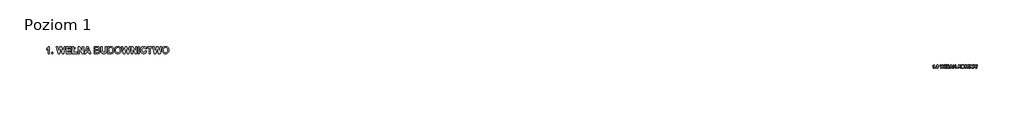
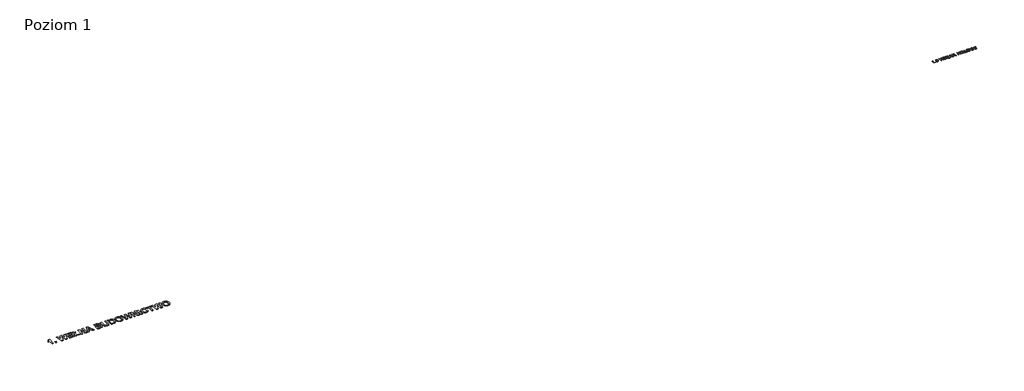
# One storey, incomplete: 2 proxies.
"""IFC4 building model written with IfcOpenShell, lengths in millimetres."""

from ifc_helpers import new_model, si_unit, origin, origin_with_axes, place, context, project, spatial, polyline, outline, extrude, element, save

model = new_model("IFC4")

# Units and contexts
model_context = context("Model", 3, world=origin())
ifc_project = project(units=[si_unit("LENGTHUNIT", "METRE", prefix="MILLI")], contexts=[model_context])

# Site, building, storey
site = spatial("IfcSite", under=ifc_project)
building = spatial("IfcBuilding", under=site)
storey = spatial("IfcBuildingStorey", under=building, Name="Poziom 1", Elevation=0.0)

# Proxies
placement = place(None, origin())
element("IfcBuildingElementProxy", 1, Name="400 mm Arial", ObjectType="400 mm Arial", at=placement, inside=storey, context=model_context, shape_type="SweptSolid", body=[
    extrude(outline(polyline([(87388.1068831, 15251.1796723), (87449.3190043, 15546.3368692), (87427.350787, 15531.4283702), (87401.3296577, 15518.0740851), (87337.1286634, 15496.0281571), (87346.1191937, 15538.8766419), (87381.8302496, 15555.5067319), (87417.0391748, 15576.5125321), (87469.9780952, 15617.0177404), (87490.7328301, 15642.937248), (87519.330368, 15642.937248), (87437.9373755, 15251.1796723), (87388.1068831, 15251.1796723)])), origin_with_axes(), (0.0, 0.0, 1.0), 5.0),
    extrude(outline(polyline([(87584.7508225, 15251.1796723), (87596.2280952, 15300.1493692), (87645.1977922, 15300.1493692), (87634.6769589, 15251.1796723), (87584.7508225, 15251.1796723)])), origin_with_axes(), (0.0, 0.0, 1.0), 5.0),
    extrude(outline(polyline([(87743.1371861, 15342.9978541), (87788.3767695, 15342.9978541), (87795.1435782, 15320.3182849), (87806.6447619, 15305.26632), (87821.8282373, 15296.8376978), (87839.641921, 15294.0281571), (87865.8244494, 15299.8863484), (87890.046277, 15317.4609223), (87906.0785924, 15336.5060217), (87919.8393642, 15359.3051457), (87931.3285924, 15385.8582944), (87940.546277, 15416.1654677), (87918.1536397, 15396.4986827), (87898.4151217, 15383.4074185), (87879.7765091, 15376.0547906), (87860.6835877, 15373.6039147), (87827.5190517, 15379.6533938), (87798.0368073, 15397.8018313), (87782.052314, 15415.2030506), (87770.6348187, 15436.0354961), (87763.7843216, 15460.299168), (87761.5008225, 15487.9940662), (87764.1788528, 15520.0885856), (87772.2129437, 15549.803962), (87785.6030952, 15577.1401955), (87804.3493073, 15602.0972859), (87823.8008935, 15619.9647693), (87845.3327354, 15632.7272575), (87868.9448329, 15640.3847504), (87894.6371861, 15642.937248), (87917.7112865, 15640.7015709), (87938.7290422, 15633.9945397), (87957.6904532, 15622.8161543), (87974.5955195, 15607.1664147), (87988.4878017, 15587.4338744), (87998.4108604, 15564.007087), (88004.3646956, 15536.8860525), (88006.3493073, 15506.0707707), (88001.0410687, 15442.9457707), (87985.1163528, 15380.5859223), (87971.379492, 15346.5845018), (87955.4189096, 15317.3652783), (87937.2346056, 15292.9282518), (87916.8265801, 15273.2734223), (87898.7678088, 15260.9293763), (87879.5971767, 15252.1122007), (87859.3146838, 15246.8218953), (87837.9203301, 15245.0584601), (87818.6600318, 15246.6604961), (87801.2408793, 15251.4666041), (87785.6628727, 15259.476784), (87771.9260119, 15270.6910359), (87760.5144944, 15284.8224279), (87751.9125176, 15301.5840283), (87746.1200815, 15320.975837), (87743.1371861, 15342.9978541)]), holes=[polyline([(87810.4705195, 15495.1673616), (87815.145117, 15465.3503635), (87829.1689096, 15442.2762632), (87849.6247572, 15427.4992745), (87873.5955195, 15422.5736116), (87892.6525744, 15425.6342177), (87911.5661634, 15434.8160359), (87929.0690043, 15450.1071107), (87943.8938149, 15471.4954866), (87954.0081615, 15496.2314005), (87957.3796104, 15521.5650889), (87955.1558888, 15541.1003635), (87948.484724, 15559.1531571), (87937.9638907, 15574.324677), (87924.1911634, 15585.2161306), (87908.6968452, 15591.7796959), (87893.0112392, 15593.967551), (87877.8397193, 15592.0427168), (87862.9312202, 15586.2682139), (87848.6922288, 15576.7635974), (87835.5292316, 15563.6484223), (87824.5062676, 15547.6280624), (87816.6873755, 15529.4078919), (87810.4705195, 15495.1673616)])]), origin_with_axes(), (0.0, 0.0, 1.0), 5.0),
    extrude(outline(polyline([(88245.0765801, 15251.1796723), (88220.5917316, 15642.937248), (88269.5614286, 15642.937248), (88280.7517695, 15447.8236116), (88285.0557467, 15372.9344071), (88286.3947619, 15348.9277783), (88290.985671, 15318.5130056), (88336.4165422, 15418.0783465), (88451.1892695, 15642.937248), (88508.2887013, 15642.937248), (88525.6002543, 15413.2961495), (88535.8341558, 15318.5130056), (88551.328474, 15356.1010738), (88581.9345346, 15417.1219071), (88695.5595346, 15642.937248), (88750.0765801, 15642.937248), (88546.1637013, 15251.1796723), (88489.9250649, 15251.1796723), (88471.3701407, 15487.5158465), (88462.3796104, 15563.3614904), (88436.4601028, 15506.3577026), (88306.0017695, 15251.1796723), (88245.0765801, 15251.1796723)])), origin_with_axes(), (0.0, 0.0, 1.0), 5.0),
    extrude(outline(polyline([(88704.1674892, 15251.1796723), (88783.7432467, 15642.937248), (89059.1977922, 15642.937248), (89052.9809361, 15600.0887632), (88824.7744967, 15600.0887632), (88799.9070725, 15477.6645207), (89022.4705195, 15477.6645207), (89010.2280952, 15434.8160359), (88791.203474, 15434.8160359), (88762.6059361, 15294.0281571), (89008.1239286, 15294.0281571), (88998.9421104, 15251.1796723), (88704.1674892, 15251.1796723)])), origin_with_axes(), (0.0, 0.0, 1.0), 5.0),
    extrude(outline(polyline([(89098.3161634, 15413.7743692), (89046.955368, 15385.8463389), (89059.1977922, 15428.6948238), (89106.6371861, 15454.5186874), (89144.8947619, 15642.937248), (89194.6296104, 15642.937248), (89162.4932467, 15484.7421723), (89273.4402164, 15544.9978541), (89261.1977922, 15502.1493692), (89154.267868, 15444.093498), (89123.7574513, 15294.0281571), (89328.5311255, 15294.0281571), (89316.2887013, 15251.1796723), (89065.3190043, 15251.1796723), (89098.3161634, 15413.7743692)])), origin_with_axes(), (0.0, 0.0, 1.0), 5.0),
    extrude(outline(polyline([(89365.2583983, 15251.1796723), (89444.8341558, 15642.937248), (89512.1674892, 15642.937248), (89571.4667316, 15491.3416041), (89614.5065043, 15374.5603541), (89635.6438149, 15300.1493692), (89657.2593452, 15411.2876268), (89702.3076407, 15642.937248), (89751.9468452, 15642.937248), (89675.8142695, 15251.1796723), (89603.5074513, 15251.1796723), (89522.4970346, 15476.2298616), (89482.9960877, 15585.7421723), (89463.3890801, 15489.0461495), (89414.9932467, 15251.1796723), (89365.2583983, 15251.1796723)])), origin_with_axes(), (0.0, 0.0, 1.0), 5.0),
    extrude(outline(polyline([(89724.2101028, 15251.1796723), (89943.4260119, 15642.937248), (90005.4032846, 15642.937248), (90067.0936255, 15251.1796723), (90017.6457089, 15251.1796723), (90001.9601028, 15361.3614904), (89838.8871861, 15361.3614904), (89779.109724, 15251.1796723), (89724.2101028, 15251.1796723)]), holes=[polyline([(89864.2328301, 15404.2099753), (89995.9345346, 15404.2099753), (89982.1618073, 15502.1493692), (89968.1977922, 15600.0887632), (89925.0623755, 15520.5130056), (89864.2328301, 15404.2099753)])]), origin_with_axes(), (0.0, 0.0, 1.0), 5.0),
    extrude(outline(polyline([(90271.1977922, 15251.1796723), (90350.390974, 15642.937248), (90400.1258225, 15642.937248), (90361.6769589, 15452.5101647), (90578.7887013, 15642.937248), (90650.7129437, 15642.937248), (90467.8417316, 15481.0120586), (90597.4392695, 15251.1796723), (90542.0614286, 15251.1796723), (90430.2536634, 15449.6408465), (90346.1826407, 15375.8993692), (90321.0282846, 15251.1796723), (90271.1977922, 15251.1796723)])), origin_with_axes(), (0.0, 0.0, 1.0), 5.0),
    extrude(outline(polyline([(90656.8341558, 15415.3046723), (90660.5612806, 15465.0783761), (90671.7426549, 15509.8606618), (90690.3782787, 15549.6515295), (90716.468152, 15584.4509791), (90747.8722418, 15612.716752), (90782.4505147, 15632.9065899), (90820.2029709, 15645.0204926), (90861.1296104, 15649.0584601), (90895.5195843, 15646.0845314), (90926.5739759, 15637.1627452), (90954.2927851, 15622.2931015), (90978.6760119, 15601.4756003), (90998.552018, 15575.6607033), (91012.7491653, 15545.7988721), (91021.2674537, 15511.8901067), (91024.1068831, 15473.9344071), (91018.3921577, 15418.9869639), (91001.2479816, 15368.1522101), (90981.8920394, 15334.1866562), (90958.064743, 15305.170676), (90931.0811966, 15281.6781334), (90902.2565043, 15264.2828919), (90861.5600081, 15249.8645681), (90818.4724134, 15245.0584601), (90774.2370914, 15250.6536306), (90734.1144589, 15267.4391419), (90700.6629911, 15294.2553115), (90676.4411634, 15329.9424563), (90661.7359077, 15371.3443266), (90656.8341558, 15415.3046723)]), holes=[polyline([(90705.8038528, 15412.7222859), (90709.378545, 15379.6175274), (90720.1026217, 15349.358176), (90737.9163055, 15323.6538673), (90762.7598187, 15304.2142366), (90791.8475318, 15291.9837679), (90822.3938149, 15287.906945), (90851.8880147, 15291.4816372), (90879.9236445, 15302.2057139), (90905.7833746, 15319.3140236), (90928.7498755, 15342.0414147), (90947.9982183, 15370.5074421), (90962.703474, 15404.8316609), (90972.0287581, 15441.809999), (90975.1371861, 15478.2383844), (90973.0898081, 15505.9781157), (90966.9476738, 15530.7588626), (90956.7107834, 15552.5806251), (90942.3791369, 15571.4434033), (90925.040684, 15586.6537785), (90905.7833746, 15597.5183323), (90884.6072086, 15604.0370645), (90861.5121861, 15606.2099753), (90831.6234551, 15602.9281926), (90803.5519589, 15593.0828446), (90777.2976975, 15576.6739312), (90752.860671, 15553.7014526), (90732.273313, 15525.1995586), (90717.5680573, 15492.2023995), (90708.7449039, 15454.7099753), (90705.8038528, 15412.7222859)])]), origin_with_axes(), (0.0, 0.0, 1.0), 5.0),
    extrude(outline(polyline([(91060.1646483, 15251.1796723), (91136.5841558, 15642.937248), (91220.0813149, 15642.937248), (91249.7309361, 15389.6720965), (91256.5216558, 15325.4950132), (91296.4051786, 15403.5404677), (91428.8720346, 15642.937248), (91506.3436255, 15642.937248), (91423.2290422, 15251.1796723), (91373.015974, 15251.1796723), (91419.0207089, 15439.406945), (91434.2041842, 15511.4268313), (91459.860671, 15593.967551), (91432.5543263, 15551.477731), (91409.1693831, 15507.9836495), (91266.9468452, 15251.1796723), (91216.733777, 15251.1796723), (91187.3710877, 15502.3406571), (91176.6589664, 15593.967551), (91158.2953301, 15499.5669829), (91109.8038528, 15251.1796723), (91060.1646483, 15251.1796723)])), origin_with_axes(), (0.0, 0.0, 1.0), 5.0),
    extrude(outline(polyline([(91513.8038528, 15251.1796723), (91593.3796104, 15642.937248), (91643.1144589, 15642.937248), (91563.5387013, 15251.1796723), (91513.8038528, 15251.1796723)])), origin_with_axes(), (0.0, 0.0, 1.0), 5.0),
    extrude(outline(polyline([(91660.7129437, 15251.1796723), (91740.2887013, 15642.937248), (91807.6220346, 15642.937248), (91866.921277, 15491.3416041), (91909.9610498, 15374.5603541), (91931.0983604, 15300.1493692), (91952.7138907, 15411.2876268), (91997.7621861, 15642.937248), (92047.4013907, 15642.937248), (91971.2688149, 15251.1796723), (91898.9619967, 15251.1796723), (91817.9515801, 15476.2298616), (91778.4506331, 15585.7421723), (91758.8436255, 15489.0461495), (91710.4477922, 15251.1796723), (91660.7129437, 15251.1796723)])), origin_with_axes(), (0.0, 0.0, 1.0), 5.0),
    extrude(outline(polyline([(92052.4705195, 15251.1796723), (92131.6637013, 15642.937248), (92181.3985498, 15642.937248), (92142.9496861, 15452.5101647), (92360.0614286, 15642.937248), (92431.985671, 15642.937248), (92249.1144589, 15481.0120586), (92378.7119967, 15251.1796723), (92323.3341558, 15251.1796723), (92211.5263907, 15449.6408465), (92127.455368, 15375.8993692), (92102.3010119, 15251.1796723), (92052.4705195, 15251.1796723)])), origin_with_axes(), (0.0, 0.0, 1.0), 5.0),
    extrude(outline(polyline([(92419.7432467, 15251.1796723), (92499.3190043, 15642.937248), (92549.0538528, 15642.937248), (92469.4780952, 15251.1796723), (92419.7432467, 15251.1796723)])), origin_with_axes(), (0.0, 0.0, 1.0), 5.0),
])
element("IfcBuildingElementProxy", 2, Name="800", ObjectType="800", at=placement, inside=storey, context=model_context, shape_type="SweptSolid", body=[
    extrude(outline(polyline([(-15688.5553841, 16963.7896585), (-15841.5553841, 16963.7896585), (-15841.5553841, 17537.938096), (-15883.9142708, 17497.5215921), (-15929.9088997, 17462.7330179), (-15979.5392708, 17433.5723734), (-16032.8053841, 17410.0396585), (-16032.8053841, 17563.0396585), (-16002.7856087, 17575.1235208), (-15971.4958138, 17591.6524515), (-15905.1061654, 17638.0455179), (-15873.3432259, 17666.8388529), (-15846.984095, 17697.9356546), (-15826.0287728, 17731.3359232), (-15810.4772591, 17767.0396585), (-15688.5553841, 17767.0396585), (-15688.5553841, 16963.7896585)])), origin_with_axes(), (0.0, 0.0, 1.0), 5.0),
    extrude(outline(polyline([(-15433.5553841, 16963.7896585), (-15433.5553841, 17116.7896585), (-15280.5553841, 17116.7896585), (-15280.5553841, 16963.7896585), (-15433.5553841, 16963.7896585)])), origin_with_axes(), (0.0, 0.0, 1.0), 5.0),
    extrude(outline(polyline([(-14695.8483529, 16963.7896585), (-14898.0553841, 17767.0396585), (-14741.0710091, 17767.0396585), (-14611.1803841, 17215.203721), (-14471.5280404, 17767.0396585), (-14265.7350716, 17767.0396585), (-14126.6803841, 17206.0396585), (-13996.7897591, 17767.0396585), (-13839.8053841, 17767.0396585), (-14039.0241341, 16963.7896585), (-14220.1139779, 16963.7896585), (-14368.9303841, 17564.234971), (-14520.7350716, 16963.7896585), (-14695.8483529, 16963.7896585)])), origin_with_axes(), (0.0, 0.0, 1.0), 5.0),
    extrude(outline(polyline([(-13763.3053841, 16963.7896585), (-13763.3053841, 17767.0396585), (-13164.0553841, 17767.0396585), (-13164.0553841, 17626.7896585), (-13610.3053841, 17626.7896585), (-13610.3053841, 17448.2896585), (-13189.5553841, 17448.2896585), (-13189.5553841, 17308.0396585), (-13610.3053841, 17308.0396585), (-13610.3053841, 17104.0396585), (-13151.3053841, 17104.0396585), (-13151.3053841, 16963.7896585), (-13763.3053841, 16963.7896585)])), origin_with_axes(), (0.0, 0.0, 1.0), 5.0),
    extrude(outline(polyline([(-13023.8053841, 17367.406846), (-13023.8053841, 17767.0396585), (-12870.8053841, 17767.0396585), (-12870.8053841, 17501.8795023), (-12692.3053841, 17658.6646585), (-12692.3053841, 17561.047471), (-12870.8053841, 17404.2623148), (-12870.8053841, 17104.0396585), (-12462.8053841, 17104.0396585), (-12462.8053841, 16963.7896585), (-13023.8053841, 16963.7896585), (-13023.8053841, 17269.7896585), (-13113.0553841, 17191.297471), (-13113.0553841, 17288.9146585), (-13023.8053841, 17367.406846)])), origin_with_axes(), (0.0, 0.0, 1.0), 5.0),
    extrude(outline(polyline([(-12348.0553841, 16963.7896585), (-12348.0553841, 17767.0396585), (-12187.6842904, 17767.0396585), (-11850.8053841, 17226.359971), (-11850.8053841, 17767.0396585), (-11697.8053841, 17767.0396585), (-11697.8053841, 16963.7896585), (-11863.1569466, 16963.7896585), (-12195.0553841, 17496.500596), (-12195.0553841, 16963.7896585), (-12348.0553841, 16963.7896585)])), origin_with_axes(), (0.0, 0.0, 1.0), 5.0),
    extrude(outline(polyline([(-10869.0553841, 16963.7896585), (-11029.8249154, 16963.7896585), (-11092.7780404, 17142.2896585), (-11396.1881966, 17142.2896585), (-11458.3444466, 16963.7896585), (-11621.3053841, 16963.7896585), (-11328.0553841, 17767.0396585), (-11165.0944466, 17767.0396585), (-10869.0553841, 16963.7896585)]), holes=[polyline([(-11141.7858529, 17282.5396585), (-11245.1803841, 17575.7896585), (-11347.1803841, 17282.5396585), (-11141.7858529, 17282.5396585)])]), origin_with_axes(), (0.0, 0.0, 1.0), 5.0),
    extrude(outline(polyline([(-10486.5553841, 17767.0396585), (-10156.8483529, 17767.0396585), (-10071.4582161, 17765.047471), (-10010.9206185, 17759.0709085), (-9965.3493294, 17746.7442484), (-9924.8581185, 17725.7017679), (-9890.0695443, 17696.1177835), (-9861.6061654, 17658.1666117), (-9850.5370736, 17636.4579935), (-9842.6305794, 17613.4669046), (-9837.8866829, 17589.1933451), (-9836.3053841, 17563.6373148), (-9838.1917366, 17535.9210062), (-9843.8507943, 17509.3502054), (-9853.282557, 17483.9249124), (-9866.4870247, 17459.6451273), (-9882.9287972, 17437.4197855), (-9902.072474, 17418.1578226), (-9923.918055, 17401.8592386), (-9948.4655404, 17388.5240335), (-9917.213099, 17375.9981546), (-9889.7956185, 17359.7369242), (-9866.213099, 17339.7403421), (-9846.4655404, 17316.0084085), (-9830.864222, 17289.2757425), (-9819.7204232, 17260.2769632), (-9813.0341439, 17229.0120707), (-9810.8053841, 17195.4810648), (-9812.4053597, 17168.3810892), (-9817.2052865, 17141.6670999), (-9836.4049935, 17089.3970804), (-9850.3752083, 17064.9429789), (-9866.6862435, 17043.078721), (-9885.338099, 17023.804307), (-9906.3307747, 17007.1197367), (-9929.782557, 16993.2055521), (-9955.8117318, 16982.2422953), (-9984.4182991, 16974.2299662), (-10015.6022591, 16969.1685648), (-10085.0299935, 16965.632432), (-10212.0319466, 16963.7896585), (-10486.5553841, 16963.7896585), (-10486.5553841, 17767.0396585)]), holes=[polyline([(-10333.5553841, 17626.7896585), (-10333.5553841, 17448.2896585), (-10216.8131966, 17448.2896585), (-10087.3210091, 17450.8795023), (-10046.5558724, 17460.1929789), (-10029.8152718, 17468.2488871), (-10015.5026497, 17478.5709085), (-10004.041346, 17490.9349222), (-9995.8547005, 17505.116807), (-9990.9427132, 17521.1165628), (-9989.3053841, 17538.9341898), (-9994.9582161, 17571.2823343), (-10002.0242562, 17584.9723978), (-10011.9167122, 17597.0064554), (-10024.5857796, 17607.1105814), (-10039.9816536, 17615.0108499), (-10078.9538216, 17624.1998148), (-10231.1569466, 17626.7896585), (-10333.5553841, 17626.7896585)]), polyline([(-10333.5553841, 17308.0396585), (-10333.5553841, 17104.0396585), (-10171.7897591, 17104.0396585), (-10094.4928841, 17105.234971), (-10051.8600716, 17108.8209085), (-10016.4489388, 17119.504014), (-9988.3092904, 17139.2017679), (-9977.5888314, 17152.3315287), (-9969.9313607, 17167.5157328), (-9965.3368782, 17184.7543802), (-9963.8053841, 17204.047471), (-9968.5368294, 17235.7232523), (-9982.7311654, 17262.219346), (-10005.8405404, 17282.8882914), (-10037.3171029, 17297.0826273), (-10093.8952279, 17305.3004007), (-10192.3092904, 17308.0396585), (-10333.5553841, 17308.0396585)])]), origin_with_axes(), (0.0, 0.0, 1.0), 5.0),
    extrude(outline(polyline([(-9683.3053841, 17767.0396585), (-9530.3053841, 17767.0396585), (-9530.3053841, 17333.7388773), (-9528.6618294, 17248.672471), (-9523.7311654, 17199.8638773), (-9516.098597, 17176.5615091), (-9504.5563607, 17155.6622171), (-9489.1044564, 17137.1660013), (-9469.7428841, 17121.0728617), (-9446.4716439, 17108.0427103), (-9419.2907357, 17098.7354593), (-9388.2001595, 17093.1511087), (-9353.1999154, 17091.2896585), (-9317.8697152, 17093.0452738), (-9287.1838021, 17098.3121195), (-9261.1421761, 17107.0901957), (-9239.7448372, 17119.3795023), (-9222.5684456, 17134.2275248), (-9209.1896615, 17150.6817484), (-9199.6084847, 17168.7421732), (-9193.8249154, 17188.4087992), (-9187.9977669, 17242.8702249), (-9186.0553841, 17324.375596), (-9186.0553841, 17767.0396585), (-9033.0553841, 17767.0396585), (-9033.0553841, 17345.6920023), (-9036.3922982, 17222.3257914), (-9046.4030404, 17141.4927835), (-9054.4838509, 17112.8613138), (-9065.3786263, 17086.5333109), (-9079.0873665, 17062.5087748), (-9095.6100716, 17040.7877054), (-9115.0525765, 17021.2704935), (-9137.5207161, 17003.8575296), (-9163.0144906, 16988.5488138), (-9191.5338997, 16975.344346), (-9223.8633675, 16964.7110453), (-9260.7873177, 16957.1158304), (-9302.3057503, 16952.5587015), (-9348.4186654, 16951.0396585), (-9403.2660775, 16952.6956644), (-9451.0661263, 16957.663682), (-9491.8188118, 16965.9437113), (-9525.5241341, 16977.5357523), (-9554.1244759, 16991.7798929), (-9579.56222, 17008.016221), (-9601.8373665, 17026.2447367), (-9620.9499154, 17046.4654398), (-9650.0358529, 17089.944932), (-9667.1686654, 17135.516221), (-9679.2712044, 17220.8814554), (-9683.3053841, 17339.1177835), (-9683.3053841, 17767.0396585)])), origin_with_axes(), (0.0, 0.0, 1.0), 5.0),
    extrude(outline(polyline([(-8880.0553841, 17767.0396585), (-8582.6217904, 17767.0396585), (-8493.9694466, 17763.2046976), (-8429.2233529, 17751.6998148), (-8395.0324349, 17739.2299662), (-8363.381556, 17722.738389), (-8334.2707161, 17702.2250833), (-8307.6999154, 17677.6900492), (-8283.9119515, 17649.6500101), (-8263.1496224, 17618.6216898), (-8245.4129281, 17584.6050882), (-8230.7018685, 17547.6002054), (-8219.1534066, 17506.8537455), (-8210.9045052, 17461.6124124), (-8205.9551644, 17411.8762064), (-8204.3053841, 17357.6451273), (-8205.8493294, 17309.8326273), (-8210.4811654, 17265.406846), (-8218.2008919, 17224.3677835), (-8229.0085091, 17186.7154398), (-8245.7677865, 17144.9791117), (-8265.7643685, 17107.4263773), (-8288.9982552, 17074.0572367), (-8315.4694466, 17044.8716898), (-8338.4543099, 17025.472764), (-8365.1745247, 17008.3150492), (-8395.6300911, 16993.3985453), (-8429.8210091, 16980.7232523), (-8492.7243294, 16968.023057), (-8573.8561654, 16963.7896585), (-8880.0553841, 16963.7896585), (-8880.0553841, 17767.0396585)]), holes=[polyline([(-8727.0553841, 17626.7896585), (-8727.0553841, 17104.0396585), (-8596.7663216, 17104.0396585), (-8533.8131966, 17105.9322367), (-8491.1803841, 17111.609971), (-8452.3576302, 17124.5840921), (-8420.756556, 17144.3814554), (-8407.4026741, 17157.8473978), (-8395.331263, 17175.0362406), (-8375.0358529, 17220.5826273), (-8361.7380013, 17283.2369242), (-8357.3053841, 17365.2154398), (-8361.7380013, 17446.0484476), (-8367.2787728, 17478.5086527), (-8375.0358529, 17505.6646585), (-8396.2775521, 17549.2935648), (-8424.5417122, 17582.1646585), (-8460.6252083, 17605.1744242), (-8505.3249154, 17619.219346), (-8559.4626107, 17624.8970804), (-8648.5631966, 17626.7896585), (-8727.0553841, 17626.7896585)])]), origin_with_axes(), (0.0, 0.0, 1.0), 5.0),
    extrude(outline(polyline([(-8102.3053841, 17360.4341898), (-8100.051722, 17419.2286234), (-8093.2907357, 17473.0923929), (-8082.0224251, 17522.0254984), (-8066.2467904, 17566.0279398), (-8034.4464974, 17624.0753031), (-7992.834681, 17675.8970804), (-7944.1007943, 17718.3057718), (-7918.0716195, 17734.7848978), (-7890.9342904, 17748.1138773), (-7852.659388, 17761.9720316), (-7811.5456185, 17771.8707132), (-7767.5929818, 17777.8099222), (-7720.8014779, 17779.7896585), (-7678.3118538, 17778.0729532), (-7638.0011849, 17772.9228373), (-7599.869471, 17764.3393106), (-7563.9167122, 17752.3223734), (-7530.1429085, 17736.8720255), (-7498.5480599, 17717.9882669), (-7469.1321663, 17695.6710978), (-7441.8952279, 17669.9205179), (-7417.3819832, 17641.1131754), (-7396.1371712, 17609.6257181), (-7378.1607918, 17575.4581461), (-7363.452845, 17538.6104593), (-7352.0133309, 17499.0826578), (-7343.8422493, 17456.8747416), (-7338.9396004, 17411.9867105), (-7337.3053841, 17364.4185648), (-7338.9271492, 17317.1819315), (-7343.7924447, 17272.5911722), (-7351.9012703, 17230.646287), (-7363.2536263, 17191.3472757), (-7377.8495125, 17154.6941385), (-7395.688929, 17120.6868753), (-7416.7718758, 17089.3254862), (-7441.0983529, 17060.609971), (-7468.1422982, 17034.9294291), (-7497.3776497, 17012.6729593), (-7528.8044075, 16993.8405619), (-7562.4225716, 16978.4322367), (-7598.2321419, 16966.4479837), (-7636.2331185, 16957.8878031), (-7676.4255013, 16952.7516947), (-7718.8092904, 16951.0396585), (-7761.6599984, 16952.7439127), (-7802.2570443, 16957.8566751), (-7840.6004281, 16966.3779459), (-7876.6901497, 16978.3077249), (-7910.5262093, 16993.6460123), (-7942.1086068, 17012.392808), (-7971.4373421, 17034.5481119), (-7998.5124154, 17060.1119242), (-8022.8388924, 17088.6640177), (-8043.9218392, 17119.7841654), (-8061.7612557, 17153.4723673), (-8076.3571419, 17189.7286234), (-8087.7094979, 17228.5529337), (-8095.8183236, 17269.9452982), (-8100.683619, 17313.9057169), (-8102.3053841, 17360.4341898)]), holes=[polyline([(-7949.3053841, 17366.0123148), (-7945.2400765, 17302.4739847), (-7933.0441536, 17247.1285257), (-7912.7176156, 17199.9759378), (-7884.2604622, 17161.016221), (-7849.5403695, 17130.5108499), (-7810.425013, 17108.7212992), (-7766.9143929, 17095.6475687), (-7719.0085091, 17091.2896585), (-7671.15243, 17095.6164408), (-7627.791224, 17108.5967874), (-7588.9248909, 17130.2306986), (-7554.553431, 17160.5181742), (-7526.4449105, 17199.4592142), (-7506.3673958, 17247.0538187), (-7494.320887, 17303.3019876), (-7490.3053841, 17368.203721), (-7494.2150521, 17432.2027445), (-7505.944056, 17487.5357523), (-7525.4923958, 17534.2027445), (-7552.8600716, 17572.203721), (-7586.7023568, 17601.6631937), (-7625.6745247, 17622.7056742), (-7669.7765755, 17635.3311624), (-7719.0085091, 17639.5396585), (-7768.2902474, 17635.2813578), (-7812.5417122, 17622.5064554), (-7851.7629036, 17601.2149515), (-7885.9538216, 17571.406846), (-7913.6701302, 17533.0198832), (-7933.4674935, 17485.991807), (-7945.3459115, 17430.3226175), (-7949.3053841, 17366.0123148)])]), origin_with_axes(), (0.0, 0.0, 1.0), 5.0),
    extrude(outline(polyline([(-7084.0983529, 16963.7896585), (-7286.3053841, 17767.0396585), (-7129.3210091, 17767.0396585), (-6999.4303841, 17215.203721), (-6859.7780404, 17767.0396585), (-6653.9850716, 17767.0396585), (-6514.9303841, 17206.0396585), (-6385.0397591, 17767.0396585), (-6228.0553841, 17767.0396585), (-6427.2741341, 16963.7896585), (-6608.3639779, 16963.7896585), (-6757.1803841, 17564.234971), (-6908.9850716, 16963.7896585), (-7084.0983529, 16963.7896585)])), origin_with_axes(), (0.0, 0.0, 1.0), 5.0),
    extrude(outline(polyline([(-6151.5553841, 16963.7896585), (-6151.5553841, 17767.0396585), (-5991.1842904, 17767.0396585), (-5654.3053841, 17226.359971), (-5654.3053841, 17767.0396585), (-5501.3053841, 17767.0396585), (-5501.3053841, 16963.7896585), (-5666.6569466, 16963.7896585), (-5998.5553841, 17496.500596), (-5998.5553841, 16963.7896585), (-6151.5553841, 16963.7896585)])), origin_with_axes(), (0.0, 0.0, 1.0), 5.0),
    extrude(outline(polyline([(-5348.3053841, 16963.7896585), (-5348.3053841, 17767.0396585), (-5195.3053841, 17767.0396585), (-5195.3053841, 16963.7896585), (-5348.3053841, 16963.7896585)])), origin_with_axes(), (0.0, 0.0, 1.0), 5.0),
    extrude(outline(polyline([(-4519.5553841, 17269.7896585), (-4366.5553841, 17218.7896585), (-4387.6850228, 17158.29564), (-4414.8161263, 17106.1065531), (-4447.9486947, 17062.2223978), (-4487.0827279, 17026.6431742), (-4532.0563607, 16999.1447611), (-4582.7077279, 16979.5030374), (-4639.0368294, 16967.7180033), (-4701.0436654, 16963.7896585), (-4740.2430672, 16965.467454), (-4777.6557259, 16970.5008402), (-4813.2816414, 16978.8898172), (-4847.1208138, 16990.6343851), (-4879.173243, 17005.7345438), (-4909.438929, 17024.1902933), (-4937.9178719, 17046.0016336), (-4964.6100716, 17071.1685648), (-4988.796473, 17099.2459574), (-5009.7580208, 17129.788682), (-5027.4947152, 17162.7967386), (-5042.006556, 17198.2701273), (-5053.2935433, 17236.208848), (-5061.3556771, 17276.6129007), (-5066.1929574, 17319.4822855), (-5067.8053841, 17364.8170023), (-5066.1789498, 17412.6979837), (-5061.2996468, 17457.8272562), (-5053.1674752, 17500.2048197), (-5041.7824349, 17539.8306742), (-5027.144526, 17576.7048197), (-5009.2537484, 17610.8272562), (-4988.1101021, 17642.1979837), (-4963.7135872, 17670.8170023), (-4936.6649727, 17696.3574686), (-4907.5650277, 17718.4925394), (-4876.413752, 17737.2222147), (-4843.2111458, 17752.5464945), (-4807.9572091, 17764.4653788), (-4770.6519417, 17772.9788675), (-4731.2953438, 17778.0869608), (-4689.8874154, 17779.7896585), (-4619.2643685, 17774.17418), (-4555.6139779, 17757.3277445), (-4526.4035286, 17744.6929178), (-4498.9362435, 17729.2503519), (-4473.2121224, 17711.0000467), (-4449.2311654, 17689.9420023), (-4423.3700814, 17660.5447855), (-4400.9704232, 17625.3453226), (-4382.0321907, 17584.3436136), (-4366.5553841, 17537.5396585), (-4519.5553841, 17512.0396585), (-4529.1988167, 17540.0610208), (-4542.9884896, 17564.957139), (-4560.9244027, 17586.728013), (-4583.006556, 17605.3736429), (-4608.4629769, 17620.3212748), (-4636.5216927, 17630.9981546), (-4667.1827034, 17637.4042826), (-4700.4460091, 17639.5396585), (-4745.9114632, 17635.6611185), (-4786.8820443, 17624.0254984), (-4823.3577523, 17604.6327982), (-4855.3385872, 17577.4830179), (-4881.3553109, 17541.6547708), (-4899.9386849, 17496.2266703), (-4911.0887093, 17441.1987162), (-4914.8053841, 17376.5709085), (-4911.2007699, 17308.1641703), (-4900.3869271, 17250.3658304), (-4882.3638558, 17203.175889), (-4857.131556, 17166.594346), (-4826.1219124, 17139.2266703), (-4790.7668099, 17119.6783304), (-4751.0662484, 17107.9493265), (-4707.0202279, 17104.0396585), (-4674.2300667, 17106.5361185), (-4643.7931771, 17114.0254984), (-4615.7095589, 17126.5077982), (-4589.9792122, 17143.9830179), (-4567.1624398, 17166.8246927), (-4547.8195443, 17195.4063578), (-4531.9505257, 17229.728013), (-4519.5553841, 17269.7896585)])), origin_with_axes(), (0.0, 0.0, 1.0), 5.0),
    extrude(outline(polyline([(-4060.5553841, 16963.7896585), (-4060.5553841, 17626.7896585), (-4290.0553841, 17626.7896585), (-4290.0553841, 17767.0396585), (-3678.0553841, 17767.0396585), (-3678.0553841, 17626.7896585), (-3907.5553841, 17626.7896585), (-3907.5553841, 16963.7896585), (-4060.5553841, 16963.7896585)])), origin_with_axes(), (0.0, 0.0, 1.0), 5.0),
    extrude(outline(polyline([(-3450.3483529, 16963.7896585), (-3652.5553841, 17767.0396585), (-3495.5710091, 17767.0396585), (-3365.6803841, 17215.203721), (-3226.0280404, 17767.0396585), (-3020.2350716, 17767.0396585), (-2881.1803841, 17206.0396585), (-2751.2897591, 17767.0396585), (-2594.3053841, 17767.0396585), (-2793.5241341, 16963.7896585), (-2974.6139779, 16963.7896585), (-3123.4303841, 17564.234971), (-3275.2350716, 16963.7896585), (-3450.3483529, 16963.7896585)])), origin_with_axes(), (0.0, 0.0, 1.0), 5.0),
    extrude(outline(polyline([(-2543.3053841, 17360.4341898), (-2541.051722, 17419.2286234), (-2534.2907357, 17473.0923929), (-2523.0224251, 17522.0254984), (-2507.2467904, 17566.0279398), (-2475.4464974, 17624.0753031), (-2433.834681, 17675.8970804), (-2385.1007943, 17718.3057718), (-2359.0716195, 17734.7848978), (-2331.9342904, 17748.1138773), (-2293.659388, 17761.9720316), (-2252.5456185, 17771.8707132), (-2208.5929818, 17777.8099222), (-2161.8014779, 17779.7896585), (-2119.3118538, 17778.0729532), (-2079.0011849, 17772.9228373), (-2040.869471, 17764.3393106), (-2004.9167122, 17752.3223734), (-1971.1429085, 17736.8720255), (-1939.5480599, 17717.9882669), (-1910.1321663, 17695.6710978), (-1882.8952279, 17669.9205179), (-1858.3819832, 17641.1131754), (-1837.1371712, 17609.6257181), (-1819.1607918, 17575.4581461), (-1804.452845, 17538.6104593), (-1793.0133309, 17499.0826578), (-1784.8422493, 17456.8747416), (-1779.9396004, 17411.9867105), (-1778.3053841, 17364.4185648), (-1779.9271492, 17317.1819315), (-1784.7924447, 17272.5911722), (-1792.9012703, 17230.646287), (-1804.2536263, 17191.3472757), (-1818.8495125, 17154.6941385), (-1836.688929, 17120.6868753), (-1857.7718758, 17089.3254862), (-1882.0983529, 17060.609971), (-1909.1422982, 17034.9294291), (-1938.3776497, 17012.6729593), (-1969.8044075, 16993.8405619), (-2003.4225716, 16978.4322367), (-2039.2321419, 16966.4479837), (-2077.2331185, 16957.8878031), (-2117.4255013, 16952.7516947), (-2159.8092904, 16951.0396585), (-2202.6599984, 16952.7439127), (-2243.2570443, 16957.8566751), (-2281.6004281, 16966.3779459), (-2317.6901497, 16978.3077249), (-2351.5262093, 16993.6460123), (-2383.1086068, 17012.392808), (-2412.4373421, 17034.5481119), (-2439.5124154, 17060.1119242), (-2463.8388924, 17088.6640177), (-2484.9218392, 17119.7841654), (-2502.7612557, 17153.4723673), (-2517.3571419, 17189.7286234), (-2528.7094979, 17228.5529337), (-2536.8183236, 17269.9452982), (-2541.683619, 17313.9057169), (-2543.3053841, 17360.4341898)]), holes=[polyline([(-2390.3053841, 17366.0123148), (-2386.2400765, 17302.4739847), (-2374.0441536, 17247.1285257), (-2353.7176156, 17199.9759378), (-2325.2604622, 17161.016221), (-2290.5403695, 17130.5108499), (-2251.425013, 17108.7212992), (-2207.9143929, 17095.6475687), (-2160.0085091, 17091.2896585), (-2112.15243, 17095.6164408), (-2068.791224, 17108.5967874), (-2029.9248909, 17130.2306986), (-1995.553431, 17160.5181742), (-1967.4449105, 17199.4592142), (-1947.3673958, 17247.0538187), (-1935.320887, 17303.3019876), (-1931.3053841, 17368.203721), (-1935.2150521, 17432.2027445), (-1946.944056, 17487.5357523), (-1966.4923958, 17534.2027445), (-1993.8600716, 17572.203721), (-2027.7023568, 17601.6631937), (-2066.6745247, 17622.7056742), (-2110.7765755, 17635.3311624), (-2160.0085091, 17639.5396585), (-2209.2902474, 17635.2813578), (-2253.5417122, 17622.5064554), (-2292.7629036, 17601.2149515), (-2326.9538216, 17571.406846), (-2354.6701302, 17533.0198832), (-2374.4674935, 17485.991807), (-2386.3459115, 17430.3226175), (-2390.3053841, 17366.0123148)])]), origin_with_axes(), (0.0, 0.0, 1.0), 5.0),
])

save(model, "model.ifc")
